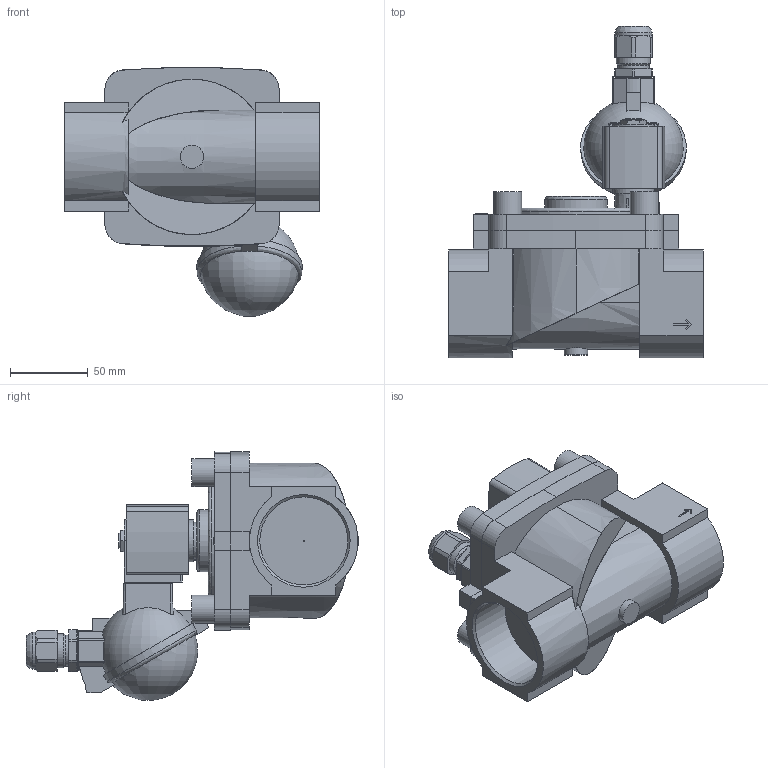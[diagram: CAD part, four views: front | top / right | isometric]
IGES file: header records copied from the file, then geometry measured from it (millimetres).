
Start section: Data from Parasolid IGES Translator 26.0.171, Copyright(c) 2006 Siemens PLM Software. All Rights Reserved.
Global section: file name: 6281-384326-2_2-Way_Solenoid_Valve__Servo-assisted__General_Purpose.igs; native system: By Siemens PLM Incorporated; preprocessor: XPlus GENERIC/IGES 26.0.171; author: Noname; organization: Noname; date: 20240906.142708; units: millimetre
Bounding box: 164 x 213.67 x 160.2 mm (x, y, z)
Surface area: 149100.5 mm2 (no closed solid volume)
Topology: 0 solids, 0 shells, 301 faces, 1599 edges, 1562 vertices
Faces by surface type: extrusion 178, revolution 123
